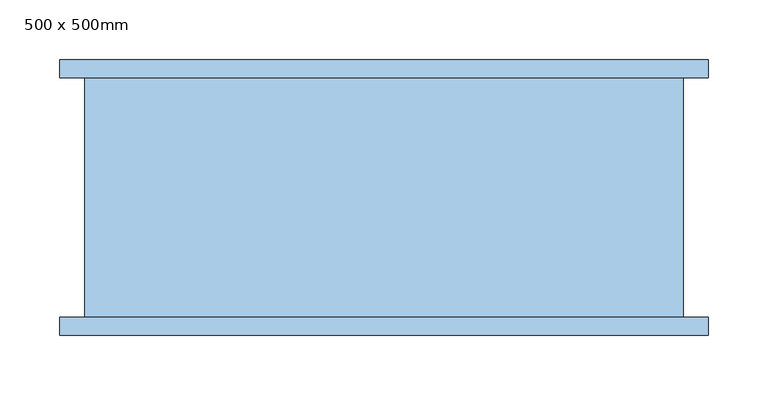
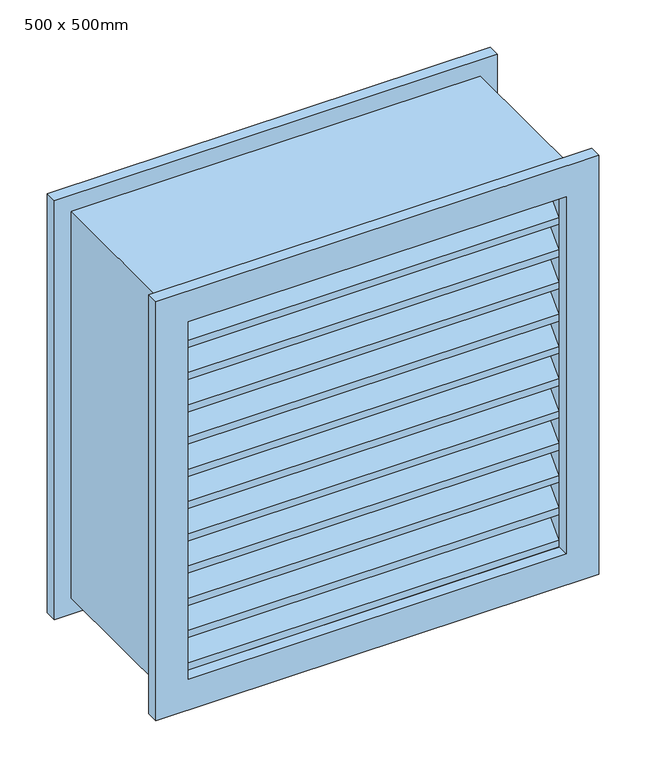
"""IFC4 building model written with IfcOpenShell, lengths in millimetres: window geometry, 百叶风口 3 - 带贴面 : 500 x 500mm."""

import ifcopenshell
import ifcopenshell.guid

model = None  # the IFC model being written
_history = None  # IfcOwnerHistory: only IFC2X3 demands one
_inside = {}  # id of a spatial element -> (the spatial element, [elements in it])
_under = {}  # id of a project, library or spatial element -> (it, [spatial elements below it])
_declared = {}  # id of a project -> (the project, [libraries it declares])
_typed = {}  # id of a type object -> (the type object, [elements of that type])
_made_of = {}  # id of a material, layer set ... -> (it, [elements and type objects made of it])


def new_model(schema):
    """Start an empty IFC model of exactly this schema.

    Asked for "IFC4X3", IfcOpenShell would pick the latest addendum, in which some entities
    have other attributes; the version numbers below select the first issue.
    IFC2X3 requires an IfcOwnerHistory on every rooted entity: one is made here for all.
    """
    global model, _history
    if schema == "IFC4X3":
        model = ifcopenshell.file(schema_version=(4, 3, 0, 0))
    else:
        model = ifcopenshell.file(schema=schema)
    _inside.clear()
    _under.clear()
    _declared.clear()
    _typed.clear()
    _made_of.clear()
    _history = None
    if model.schema == "IFC2X3":
        org = make("IfcOrganization", Name="unknown")
        user = make(
            "IfcPersonAndOrganization",
            ThePerson=make("IfcPerson", FamilyName="unknown"),
            TheOrganization=org,
        )
        app = make(
            "IfcApplication",
            ApplicationDeveloper=org,
            Version="unknown",
            ApplicationFullName="unknown",
            ApplicationIdentifier="unknown",
        )
        _history = make(
            "IfcOwnerHistory",
            OwningUser=user,
            OwningApplication=app,
            ChangeAction="ADDED",
            CreationDate=0,
        )
    return model


def make(cls, **values):
    """One entity of the class cls with the attributes given. An attribute that is None is left unset."""
    return model.create_entity(
        cls, **{name: value for name, value in values.items() if value is not None}
    )


def rooted(cls, **values):
    """An entity with a GlobalId (a new one), such as an element, a storey or a relation."""
    return make(cls, GlobalId=ifcopenshell.guid.new(), OwnerHistory=_history, **values)


def si_unit(unit_type, name, prefix=None):
    """IfcSIUnit, for example si_unit("LENGTHUNIT", "METRE", prefix="MILLI")."""
    return make("IfcSIUnit", UnitType=unit_type, Prefix=prefix, Name=name)


def assignment(units):
    """IfcUnitAssignment: the units of a project."""
    return None if units is None else make("IfcUnitAssignment", Units=units)


def point(xyz):
    """IfcCartesianPoint."""
    return None if xyz is None else make("IfcCartesianPoint", Coordinates=xyz)


def direction(xyz):
    """IfcDirection."""
    return None if xyz is None else make("IfcDirection", DirectionRatios=xyz)


def frame(location, z_axis=None, x_axis=None):
    """IfcAxis2Placement3D, a coordinate frame: its origin and axes. An axis left out is left unset."""
    return make(
        "IfcAxis2Placement3D",
        Location=point(location),
        Axis=direction(z_axis),
        RefDirection=direction(x_axis),
    )


def origin():
    """The frame at (0, 0, 0) with its axes left unset."""
    return frame((0.0, 0.0, 0.0))


def place(relative_to, where):
    """IfcLocalPlacement: puts the frame where relative to a parent placement (None: the world)."""
    return make(
        "IfcLocalPlacement", PlacementRelTo=relative_to, RelativePlacement=where
    )


def context(
    kind, dimensions, precision=None, world=None, true_north=None, identifier=None
):
    """IfcGeometricRepresentationContext, for example the 3D "Model" context."""
    return make(
        "IfcGeometricRepresentationContext",
        ContextIdentifier=identifier,
        ContextType=kind,
        CoordinateSpaceDimension=dimensions,
        Precision=precision,
        WorldCoordinateSystem=world,
        TrueNorth=true_north,
    )


def project(units=None, contexts=None):
    """IfcProject with its units and contexts."""
    return rooted(
        "IfcProject",
        Name="project",
        RepresentationContexts=contexts,
        UnitsInContext=assignment(units),
    )


def spatial(cls, under=None, at=None, **own):
    """A site, building, storey or space (cls), placed at a placement, below another one or the project."""
    s = rooted(cls, ObjectPlacement=at, **own)
    if under is not None:
        _under.setdefault(under.id(), (under, []))[1].append(s)
    return s


def polyline(points):
    """IfcPolyline through the points."""
    return make("IfcPolyline", Points=[point(p) for p in points])


def outline(outer, holes=None, kind="AREA"):
    """IfcArbitraryClosedProfileDef: a profile drawn as a closed curve; with holes, ...WithVoids."""
    if holes is None:
        return make("IfcArbitraryClosedProfileDef", ProfileType=kind, OuterCurve=outer)
    return make(
        "IfcArbitraryProfileDefWithVoids",
        ProfileType=kind,
        OuterCurve=outer,
        InnerCurves=holes,
    )


def extrude(swept, where, along, depth):
    """IfcExtrudedAreaSolid: the profile swept, set in the frame where, extruded along a direction by depth."""
    return make(
        "IfcExtrudedAreaSolid",
        SweptArea=swept,
        Position=where,
        ExtrudedDirection=direction(along),
        Depth=depth,
    )


def shape(context_of_items, identifier, shape_type, items):
    """IfcShapeRepresentation: the items that make up one representation, for example the "Body"."""
    return make(
        "IfcShapeRepresentation",
        ContextOfItems=context_of_items,
        RepresentationIdentifier=identifier,
        RepresentationType=shape_type,
        Items=items,
    )


def source(mapping_origin, context_of_items, identifier, shape_type, items):
    """IfcRepresentationMap: a shape defined once, which mapped items show again and again."""
    return make(
        "IfcRepresentationMap",
        MappingOrigin=mapping_origin,
        MappedRepresentation=shape(context_of_items, identifier, shape_type, items),
    )


def transform(
    local_origin,
    x_axis=None,
    y_axis=None,
    z_axis=None,
    scale=None,
    scale2=None,
    scale3=None,
    uniform=True,
):
    """IfcCartesianTransformationOperator3D, or its non-uniform kind. x_axis, y_axis, z_axis: its Axis1, 2, 3."""
    if uniform:
        return make(
            "IfcCartesianTransformationOperator3D",
            Axis1=direction(x_axis),
            Axis2=direction(y_axis),
            LocalOrigin=point(local_origin),
            Scale=scale,
            Axis3=direction(z_axis),
        )
    return make(
        "IfcCartesianTransformationOperator3DnonUniform",
        Axis1=direction(x_axis),
        Axis2=direction(y_axis),
        LocalOrigin=point(local_origin),
        Scale=scale,
        Axis3=direction(z_axis),
        Scale2=scale2,
        Scale3=scale3,
    )


def mapped(mapping_source, mapping_target):
    """IfcMappedItem: shows the shape of a source again, moved by a transform."""
    return make(
        "IfcMappedItem", MappingSource=mapping_source, MappingTarget=mapping_target
    )


def made_of(thing, what):
    """Note that an element or type object is made of a material, layer set ...; save() writes the relation."""
    if what is not None:
        _made_of.setdefault(what.id(), (what, []))[1].append(thing)
    return thing


def element(
    cls,
    number,
    at=None,
    inside=None,
    cuts=None,
    type_object=None,
    material=None,
    context=None,
    identifier="Body",
    shape_type=None,
    held_by="IfcProductDefinitionShape",
    body=None,
    shapes=None,
    **own,
):
    """One element of the class cls, such as IfcWall. Its Tag is "e" and its number.

    at: its placement. inside: the storey or other place that contains it. cuts: it is an
    opening in that element (IfcRelVoidsElement). A single representation is given by context,
    identifier, shape_type and body (its items); several are given by shapes. held_by: the class
    of the entity that holds the representations. save() writes the other relations.
    """
    e = rooted(cls, Tag="e%d" % number, ObjectPlacement=at, **own)
    if body is not None:
        shapes = [shape(context, identifier, shape_type, body)]
    if shapes is not None:
        e.Representation = make(held_by, Representations=shapes)
    if inside is not None:
        _inside.setdefault(inside.id(), (inside, []))[1].append(e)
    if cuts is not None:
        rooted(
            "IfcRelVoidsElement", RelatingBuildingElement=cuts, RelatedOpeningElement=e
        )
    if type_object is not None:
        _typed.setdefault(type_object.id(), (type_object, []))[1].append(e)
    return made_of(e, material)


def aggregate(whole, parts):
    """IfcRelAggregates: a whole, such as a stair, and the parts it consists of."""
    return rooted("IfcRelAggregates", RelatingObject=whole, RelatedObjects=parts)


def save(model, path):
    """Write the relations noted so far, then the file.

    IfcRelAggregates (storeys below a building ...), IfcRelContainedInSpatialStructure (elements
    in a storey), IfcRelDefinesByType, IfcRelAssociatesMaterial and IfcRelDeclares: one each for
    every whole, place, type object, material and project.
    """
    for whole, parts in _under.values():
        aggregate(whole, parts)
    for where, things in _inside.values():
        rooted(
            "IfcRelContainedInSpatialStructure",
            RelatedElements=things,
            RelatingStructure=where,
        )
    for kind, things in _typed.values():
        rooted("IfcRelDefinesByType", RelatedObjects=things, RelatingType=kind)
    for what, things in _made_of.values():
        rooted("IfcRelAssociatesMaterial", RelatedObjects=things, RelatingMaterial=what)
    for by, libraries in _declared.values():
        rooted("IfcRelDeclares", RelatingContext=by, RelatedDefinitions=libraries)
    model.write(path)


def window_500_x_500mm_412bf19c(model_context):
    return source(origin(), model_context, "Body", "SweptSolid", [
        extrude(outline(polyline([(-64.0789755, 1380.9512806), (-28.157951, 1345.0302561), (-28.157951, 1336.05), (-64.0789755, 1371.9710245), (-100.0, 1336.05), (-100.0, 1345.0302561), (-64.0789755, 1380.9512806)])), frame((-230.95, 0.0, 0.0), z_axis=(1.0, 0.0, 0.0), x_axis=(0.0, 1.0, 0.0)), (0.0, 0.0, 1.0), 461.9),
        extrude(outline(polyline([(-64.0789755, 1339.2512806), (-28.157951, 1303.3302561), (-28.157951, 1294.35), (-64.0789755, 1330.2710245), (-100.0, 1294.35), (-100.0, 1303.3302561), (-64.0789755, 1339.2512806)])), frame((-230.95, 0.0, 0.0), z_axis=(1.0, 0.0, 0.0), x_axis=(0.0, 1.0, 0.0)), (0.0, 0.0, 1.0), 461.9),
        extrude(outline(polyline([(-64.0789755, 1297.5512806), (-28.157951, 1261.6302561), (-28.157951, 1252.65), (-64.0789755, 1288.5710245), (-100.0, 1252.65), (-100.0, 1261.6302561), (-64.0789755, 1297.5512806)])), frame((-230.95, 0.0, 0.0), z_axis=(1.0, 0.0, 0.0), x_axis=(0.0, 1.0, 0.0)), (0.0, 0.0, 1.0), 461.9),
        extrude(outline(polyline([(-64.0789755, 1255.8512806), (-28.157951, 1219.9302561), (-28.157951, 1210.95), (-64.0789755, 1246.8710245), (-100.0, 1210.95), (-100.0, 1219.9302561), (-64.0789755, 1255.8512806)])), frame((-230.95, 0.0, 0.0), z_axis=(1.0, 0.0, 0.0), x_axis=(0.0, 1.0, 0.0)), (0.0, 0.0, 1.0), 461.9),
        extrude(outline(polyline([(-64.0789755, 1214.1512806), (-28.157951, 1178.2302561), (-28.157951, 1169.25), (-64.0789755, 1205.1710245), (-100.0, 1169.25), (-100.0, 1178.2302561), (-64.0789755, 1214.1512806)])), frame((-230.95, 0.0, 0.0), z_axis=(1.0, 0.0, 0.0), x_axis=(0.0, 1.0, 0.0)), (0.0, 0.0, 1.0), 461.9),
        extrude(outline(polyline([(-64.0789755, 1172.4512806), (-28.157951, 1136.5302561), (-28.157951, 1127.55), (-64.0789755, 1163.4710245), (-100.0, 1127.55), (-100.0, 1136.5302561), (-64.0789755, 1172.4512806)])), frame((-230.95, 0.0, 0.0), z_axis=(1.0, 0.0, 0.0), x_axis=(0.0, 1.0, 0.0)), (0.0, 0.0, 1.0), 461.9),
        extrude(outline(polyline([(-64.0789755, 1130.7512806), (-28.157951, 1094.8302561), (-28.157951, 1085.85), (-64.0789755, 1121.7710245), (-100.0, 1085.85), (-100.0, 1094.8302561), (-64.0789755, 1130.7512806)])), frame((-230.95, 0.0, 0.0), z_axis=(1.0, 0.0, 0.0), x_axis=(0.0, 1.0, 0.0)), (0.0, 0.0, 1.0), 461.9),
        extrude(outline(polyline([(-64.0789755, 1089.0512806), (-28.157951, 1053.1302561), (-28.157951, 1044.15), (-64.0789755, 1080.0710245), (-100.0, 1044.15), (-100.0, 1053.1302561), (-64.0789755, 1089.0512806)])), frame((-230.95, 0.0, 0.0), z_axis=(1.0, 0.0, 0.0), x_axis=(0.0, 1.0, 0.0)), (0.0, 0.0, 1.0), 461.9),
        extrude(outline(polyline([(-64.0789755, 1047.3512806), (-28.157951, 1011.4302561), (-28.157951, 1002.45), (-64.0789755, 1038.3710245), (-100.0, 1002.45), (-100.0, 1011.4302561), (-64.0789755, 1047.3512806)])), frame((-230.95, 0.0, 0.0), z_axis=(1.0, 0.0, 0.0), x_axis=(0.0, 1.0, 0.0)), (0.0, 0.0, 1.0), 461.9),
        extrude(outline(polyline([(-64.0789755, 1005.6512806), (-28.157951, 969.7302561), (-28.157951, 960.75), (-64.0789755, 996.6710245), (-100.0, 960.75), (-100.0, 969.7302561), (-64.0789755, 1005.6512806)])), frame((-230.95, 0.0, 0.0), z_axis=(1.0, 0.0, 0.0), x_axis=(0.0, 1.0, 0.0)), (0.0, 0.0, 1.0), 461.9),
        extrude(outline(polyline([(-64.0789755, 963.9512806), (-28.157951, 928.0302561), (-28.157951, 919.05), (-64.0789755, 954.9710245), (-100.0, 919.05), (-100.0, 928.0302561), (-64.0789755, 963.9512806)])), frame((-230.95, 0.0, 0.0), z_axis=(1.0, 0.0, 0.0), x_axis=(0.0, 1.0, 0.0)), (0.0, 0.0, 1.0), 461.9),
        extrude(outline(polyline([(1400.0, 250.0), (1400.0, -250.0), (900.0, -250.0), (900.0, 250.0), (1400.0, 250.0)]), holes=[polyline([(1380.95, 230.95), (919.05, 230.95), (919.05, -230.95), (1380.95, -230.95), (1380.95, 230.95)])]), frame((0.0, -100.0, 0.0), z_axis=(0.0, 1.0, 0.0), x_axis=(0.0, 0.0, 1.0)), (0.0, 0.0, 1.0), 200.0),
        extrude(outline(polyline([(1420.95, -270.95), (879.05, -270.95), (879.05, 270.95), (1420.95, 270.95), (1420.95, -270.95)]), holes=[polyline([(1380.95, -230.95), (1380.95, 230.95), (919.05, 230.95), (919.05, -230.95), (1380.95, -230.95)])]), frame((0.0, -115.0, 0.0), z_axis=(0.0, 1.0, 0.0), x_axis=(0.0, 0.0, 1.0)), (0.0, 0.0, 1.0), 15.0),
        extrude(outline(polyline([(1420.95, 270.95), (1420.95, -270.95), (879.05, -270.95), (879.05, 270.95), (1420.95, 270.95)]), holes=[polyline([(1380.95, 230.95), (919.05, 230.95), (919.05, -230.95), (1380.95, -230.95), (1380.95, 230.95)])]), frame((0.0, 100.0, 0.0), z_axis=(0.0, 1.0, 0.0), x_axis=(0.0, 0.0, 1.0)), (0.0, 0.0, 1.0), 15.0),
    ])


if __name__ == "__main__":
    model = new_model("IFC4")
    model_context = context("Model", 3, world=origin())
    ifc_project = project(units=[si_unit("LENGTHUNIT", "METRE", prefix="MILLI")], contexts=[model_context])
    site = spatial("IfcSite", under=ifc_project)
    building = spatial("IfcBuilding", under=site)
    placement = place(None, origin())
    window_500_x_500mm_shape = window_500_x_500mm_412bf19c(model_context)
    element("IfcWindow", 1, ObjectType="百叶风口 3 - 带贴面 : 500 x 500mm", at=placement, inside=building, context=model_context, shape_type="MappedRepresentation", body=[
        mapped(window_500_x_500mm_shape, transform((0.0, 0.0, 0.0), x_axis=(1.0, 0.0, 0.0), y_axis=(0.0, 1.0, 0.0), z_axis=(0.0, 0.0, 1.0))),
    ])
    save(model, "model.ifc")
